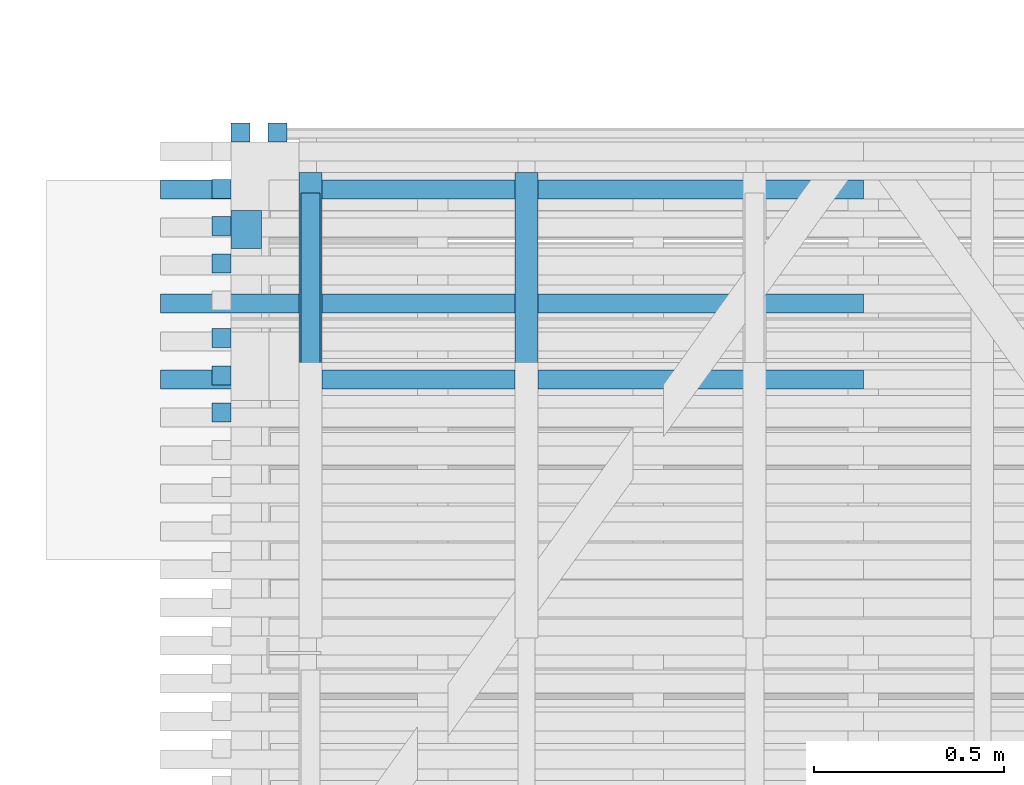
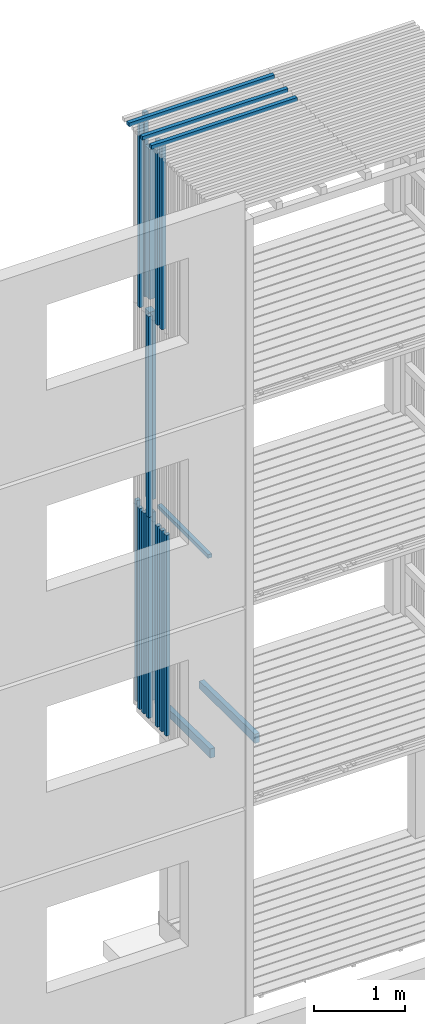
# One storey, part 117 of 182: 21 beams.
"""IFC2X3 building model written with IfcOpenShell, lengths in metres."""

from ifc_helpers import new_model, si_unit, frame, origin, place, context, project, spatial, faceted_brep, element, save


model = new_model("IFC2X3")

# Units and contexts
model_context = context("Model", 3, precision=1e-06, world=origin())
ifc_project = project(units=[si_unit("LENGTHUNIT", "METRE"), si_unit("PLANEANGLEUNIT", "RADIAN")], contexts=[model_context])

# Site, building, storey
site = spatial("IfcSite", under=ifc_project, CompositionType="ELEMENT")
building = spatial("IfcBuilding", under=site, CompositionType="ELEMENT")
storey = spatial("IfcBuildingStorey", under=building, Name="vs", CompositionType="ELEMENT", Elevation=-0.85)

# Beams
placement = place(None, origin())
beam_1_placement = place(placement, frame((53.80299999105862, 5.965077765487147, 2.604249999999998), z_axis=(0.0, 0.0, 1.0), x_axis=(0.0, 1.0, 0.0)))
element("IfcBeam", 1, at=beam_1_placement, inside=storey, Name="Solive", context=model_context, shape_type="Brep", body=[
    faceted_brep([(0.0, -0.030000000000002, -0.06185), (1.225000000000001, -0.030000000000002, -0.06185), (1.225000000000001, -0.030000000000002, 0.037349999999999), (0.0, -0.030000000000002, 0.06185), (0.0, 0.030000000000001, 0.06185), (0.0, 0.030000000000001, -0.06185), (0.0, -0.030000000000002, -0.06185), (0.0, -0.030000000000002, 0.06185), (0.0, -0.030000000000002, -0.06185), (0.0, 0.030000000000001, -0.06185), (1.225000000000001, 0.030000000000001, -0.06185), (1.225000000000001, -0.030000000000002, -0.06185), (1.225000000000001, 0.030000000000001, -0.06185), (0.0, 0.030000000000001, -0.06185), (0.0, 0.030000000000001, 0.06185), (1.225000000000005, 0.030000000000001, 0.037349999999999), (1.225000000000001, -0.030000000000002, 0.037349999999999), (1.225000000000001, -0.030000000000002, -0.06185), (1.225000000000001, 0.030000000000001, -0.06185), (1.225000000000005, 0.030000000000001, 0.037349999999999), (0.0, -0.030000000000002, 0.06185), (1.225000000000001, -0.030000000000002, 0.037349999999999), (1.225000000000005, 0.030000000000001, 0.037349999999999), (0.0, 0.030000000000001, 0.06185)], [[[0, 1, 2, 3]], [[4, 5, 6, 7]], [[8, 9, 10, 11]], [[12, 13, 14, 15]], [[16, 17, 18, 19]], [[20, 21, 22, 23]]]),
])
beam_2_placement = place(placement, frame((53.148181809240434, 7.295077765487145, 7.974999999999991), z_axis=(0.0, -1.0, 0.0), x_axis=(0.0, 0.0, 1.0)))
element("IfcBeam", 2, at=beam_2_placement, inside=storey, Name="Bardage", context=model_context, shape_type="Brep", body=[
    faceted_brep([(2.479999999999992, -0.025000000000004, 0.024999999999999), (2.479999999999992, -0.025000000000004, -0.024999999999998), (2.479999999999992, 0.025000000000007, -0.024999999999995), (2.479999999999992, 0.024999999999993, 0.025000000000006), (0.0, 0.024999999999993, 0.025000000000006), (0.0, -0.025000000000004, 0.024999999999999), (2.479999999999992, -0.025000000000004, 0.024999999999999), (2.479999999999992, 0.024999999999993, 0.025000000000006), (0.0, -0.025000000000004, 0.024999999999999), (0.0, 0.024999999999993, 0.025000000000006), (0.0, 0.025000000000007, -0.024999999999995), (0.0, -0.025000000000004, -0.025000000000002), (0.0, 0.025000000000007, -0.024999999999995), (0.0, 0.024999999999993, 0.025000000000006), (2.479999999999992, 0.024999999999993, 0.025000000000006), (2.479999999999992, 0.025000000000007, -0.024999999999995), (0.0, -0.025000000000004, -0.025000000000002), (0.0, 0.025000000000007, -0.024999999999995), (2.479999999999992, 0.025000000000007, -0.024999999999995), (2.479999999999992, -0.025000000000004, -0.024999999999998), (2.479999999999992, -0.025000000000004, 0.024999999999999), (0.0, -0.025000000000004, 0.024999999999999), (0.0, -0.025000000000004, -0.025000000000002), (2.479999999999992, -0.025000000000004, -0.024999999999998)], [[[0, 1, 2, 3]], [[4, 5, 6, 7]], [[8, 9, 10, 11]], [[12, 13, 14, 15]], [[16, 17, 18, 19]], [[20, 21, 22, 23]]]),
])
beam_3_placement = place(placement, frame((53.23499999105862, 7.135077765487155, 5.217399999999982), z_axis=(0.0, 0.0, 1.0), x_axis=(0.0, -1.0, 0.0)))
element("IfcBeam", 3, at=beam_3_placement, inside=storey, Name="Calage", context=model_context, shape_type="Brep", body=[
    faceted_brep([(0.0, 0.025000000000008, -0.024999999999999), (0.0, -0.024999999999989, -0.024999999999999), (0.0, -0.024999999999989, 0.024999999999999), (0.0, 0.025000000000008, 0.024999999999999), (1.115000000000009, -0.024999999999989, 0.024999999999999), (1.115000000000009, -0.024999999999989, -0.024999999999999), (1.115000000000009, 0.025000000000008, -0.024999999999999), (1.115000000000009, 0.025000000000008, 0.024999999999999), (0.0, -0.024999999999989, 0.024999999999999), (0.0, -0.024999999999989, -0.024999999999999), (1.115000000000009, -0.024999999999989, -0.024999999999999), (1.115000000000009, -0.024999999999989, 0.024999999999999), (1.115000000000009, -0.024999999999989, -0.024999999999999), (0.0, -0.024999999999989, -0.024999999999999), (0.0, 0.025000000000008, -0.024999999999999), (1.115000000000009, 0.025000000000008, -0.024999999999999), (1.115000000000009, 0.025000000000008, -0.024999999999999), (0.0, 0.025000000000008, -0.024999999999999), (0.0, 0.025000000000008, 0.024999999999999), (1.115000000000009, 0.025000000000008, 0.024999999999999), (1.115000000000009, 0.025000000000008, 0.024999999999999), (0.0, 0.025000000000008, 0.024999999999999), (0.0, -0.024999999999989, 0.024999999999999), (1.115000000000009, -0.024999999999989, 0.024999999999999)], [[[0, 1, 2, 3]], [[4, 5, 6, 7]], [[8, 9, 10, 11]], [[12, 13, 14, 15]], [[16, 17, 18, 19]], [[20, 21, 22, 23]]]),
])
beam_4_placement = place(placement, frame((53.23499999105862, 5.965077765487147, 2.604249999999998), z_axis=(0.0, 0.0, 1.0), x_axis=(0.0, 1.0, 0.0)))
element("IfcBeam", 4, at=beam_4_placement, inside=storey, Name="Solive", context=model_context, shape_type="Brep", body=[
    faceted_brep([(0.0, -0.030000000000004, -0.06185), (1.225000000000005, -0.030000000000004, -0.06185), (1.225000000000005, -0.030000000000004, 0.037349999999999), (0.0, -0.030000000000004, 0.06185), (0.0, 0.029999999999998, -0.06185), (1.225000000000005, 0.029999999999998, -0.06185), (1.225000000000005, -0.030000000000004, -0.06185), (0.0, -0.030000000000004, -0.06185), (0.0, 0.029999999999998, 0.06185), (0.0, 0.029999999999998, -0.06185), (0.0, -0.030000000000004, -0.06185), (0.0, -0.030000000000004, 0.06185), (1.225000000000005, 0.029999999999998, -0.06185), (0.0, 0.029999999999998, -0.06185), (0.0, 0.029999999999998, 0.06185), (1.225000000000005, 0.029999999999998, 0.037349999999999), (1.225000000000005, -0.030000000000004, 0.037349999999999), (1.225000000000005, -0.030000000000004, -0.06185), (1.225000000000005, 0.029999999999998, -0.06185), (1.225000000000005, 0.029999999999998, 0.037349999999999), (0.0, -0.030000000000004, 0.06185), (1.225000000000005, -0.030000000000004, 0.037349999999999), (1.225000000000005, 0.029999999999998, 0.037349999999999), (0.0, 0.029999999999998, 0.06185)], [[[0, 1, 2, 3]], [[4, 5, 6, 7]], [[8, 9, 10, 11]], [[12, 13, 14, 15]], [[16, 17, 18, 19]], [[20, 21, 22, 23]]]),
])
beam_5_placement = place(placement, frame((54.689999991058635, 6.845077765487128, 10.47999999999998), z_axis=(0.0, 0.0, 1.0), x_axis=(-1.0, -2e-15, 0.0)))
element("IfcBeam", 5, at=beam_5_placement, inside=storey, Name="Bardage", context=model_context, shape_type="Brep", body=[
    faceted_brep([(1.850000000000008, -0.025000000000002, -0.024999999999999), (1.850000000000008, -0.025000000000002, 0.025000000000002), (-1e-15, -0.024999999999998, 0.025000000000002), (-1e-15, -0.024999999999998, -0.024999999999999), (1.850000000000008, -0.025000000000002, 0.025000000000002), (1.850000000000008, -0.025000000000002, -0.024999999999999), (1.850000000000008, 0.025000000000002, -0.024999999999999), (1.850000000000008, 0.025000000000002, 0.025000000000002), (1.850000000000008, 0.025000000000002, -0.024999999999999), (1.850000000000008, -0.025000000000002, -0.024999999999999), (-1e-15, -0.024999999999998, -0.024999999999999), (0.0, 0.025000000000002, -0.024999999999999), (1.850000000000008, 0.025000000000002, 0.025000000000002), (1.850000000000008, 0.025000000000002, -0.024999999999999), (0.0, 0.025000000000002, -0.024999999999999), (0.0, 0.025000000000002, 0.025000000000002), (-1e-15, -0.024999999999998, 0.025000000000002), (1.850000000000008, -0.025000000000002, 0.025000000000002), (1.850000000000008, 0.025000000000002, 0.025000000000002), (0.0, 0.025000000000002, 0.025000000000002), (-1e-15, -0.024999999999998, -0.024999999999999), (-1e-15, -0.024999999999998, 0.025000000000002), (0.0, 0.025000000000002, 0.025000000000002), (0.0, 0.025000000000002, -0.024999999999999)], [[[0, 1, 2, 3]], [[4, 5, 6, 7]], [[8, 9, 10, 11]], [[12, 13, 14, 15]], [[16, 17, 18, 19]], [[20, 21, 22, 23]]]),
])
for number, where, z_axis, x_axis in (
    (6, (54.689999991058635, 7.145077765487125, 10.47999999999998), (0.0, 0.0, 1.0), (-1.0, 0.0, 0.0)),
    (7, (54.689999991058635, 6.645077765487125, 10.47999999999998), (0.0, 0.0, 1.0), (-1.0, 0.0, 0.0)),
):
    element("IfcBeam", number, at=place(placement, frame(where, z_axis=z_axis, x_axis=x_axis)), inside=storey, Name="Bardage", context=model_context, shape_type="Brep", body=[
        faceted_brep([(1.850000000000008, -0.024999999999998, -0.024999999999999), (1.850000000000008, -0.024999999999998, 0.025000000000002), (-1e-15, -0.024999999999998, 0.025000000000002), (-1e-15, -0.024999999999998, -0.024999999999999), (1.850000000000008, -0.024999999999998, 0.025000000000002), (1.850000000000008, -0.024999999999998, -0.024999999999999), (1.850000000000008, 0.024999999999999, -0.024999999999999), (1.850000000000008, 0.024999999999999, 0.025000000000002), (1.850000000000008, 0.024999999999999, -0.024999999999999), (1.850000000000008, -0.024999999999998, -0.024999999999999), (-1e-15, -0.024999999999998, -0.024999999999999), (-1e-15, 0.024999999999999, -0.024999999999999), (1.850000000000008, 0.024999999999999, 0.025000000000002), (1.850000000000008, 0.024999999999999, -0.024999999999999), (-1e-15, 0.024999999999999, -0.024999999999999), (-1e-15, 0.024999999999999, 0.025000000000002), (-1e-15, -0.024999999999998, 0.025000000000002), (1.850000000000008, -0.024999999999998, 0.025000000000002), (1.850000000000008, 0.024999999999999, 0.025000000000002), (-1e-15, 0.024999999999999, 0.025000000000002), (-1e-15, -0.024999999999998, -0.024999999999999), (-1e-15, -0.024999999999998, 0.025000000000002), (-1e-15, 0.024999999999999, 0.025000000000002), (-1e-15, 0.024999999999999, -0.024999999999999)], [[[0, 1, 2, 3]], [[4, 5, 6, 7]], [[8, 9, 10, 11]], [[12, 13, 14, 15]], [[16, 17, 18, 19]], [[20, 21, 22, 23]]]),
    ])
beam_6_placement = place(placement, frame((52.999999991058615, 6.65598685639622, 2.575000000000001), z_axis=(1.0, 0.0, 0.0), x_axis=(0.0, 0.0, 1.0)))
element("IfcBeam", 8, at=beam_6_placement, inside=storey, Name="Bardage", context=model_context, shape_type="Brep", body=[
    faceted_brep([(2.699961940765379, -0.025000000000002, 0.025000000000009), (2.699961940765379, -0.025000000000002, -0.025000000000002), (2.699961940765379, 0.024999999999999, -0.025000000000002), (2.699961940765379, 0.024999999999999, 0.025000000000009), (0.0, -0.025000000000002, 0.025000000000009), (2.699961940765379, -0.025000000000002, 0.025000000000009), (2.699961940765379, 0.024999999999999, 0.025000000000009), (0.0, 0.024999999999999, 0.025000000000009), (0.0, -0.025000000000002, 0.025000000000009), (0.0, 0.024999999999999, 0.025000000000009), (0.0, 0.024999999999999, -0.025000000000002), (0.0, -0.025000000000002, -0.025000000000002), (0.0, -0.025000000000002, 0.025000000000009), (0.0, -0.025000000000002, -0.025000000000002), (2.699961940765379, -0.025000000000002, -0.025000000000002), (2.699961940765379, -0.025000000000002, 0.025000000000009), (0.0, -0.025000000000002, -0.025000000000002), (0.0, 0.024999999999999, -0.025000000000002), (2.699961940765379, 0.024999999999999, -0.025000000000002), (2.699961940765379, -0.025000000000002, -0.025000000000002), (0.0, 0.024999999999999, -0.025000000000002), (0.0, 0.024999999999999, 0.025000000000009), (2.699961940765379, 0.024999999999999, 0.025000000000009), (2.699961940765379, 0.024999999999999, -0.025000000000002)], [[[0, 1, 2, 3]], [[4, 5, 6, 7]], [[8, 9, 10, 11]], [[12, 13, 14, 15]], [[16, 17, 18, 19]], [[20, 21, 22, 23]]]),
])
beam_7_placement = place(placement, frame((52.999999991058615, 7.146895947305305, 2.575000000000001), z_axis=(1.0, 0.0, 0.0), x_axis=(0.0, 0.0, 1.0)))
element("IfcBeam", 9, at=beam_7_placement, inside=storey, Name="Bardage", context=model_context, shape_type="Brep", body=[
    faceted_brep([(2.699961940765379, -0.025000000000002, 0.025000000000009), (2.699961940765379, -0.025000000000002, -0.025000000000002), (2.699961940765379, 0.024999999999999, -0.025000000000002), (2.699961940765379, 0.024999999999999, 0.025000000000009), (0.0, -0.024999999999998, 0.025000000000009), (2.699961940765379, -0.025000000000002, 0.025000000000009), (2.699961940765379, 0.024999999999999, 0.025000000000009), (0.0, 0.024999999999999, 0.025000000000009), (0.0, -0.024999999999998, 0.025000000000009), (0.0, 0.024999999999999, 0.025000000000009), (0.0, 0.024999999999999, -0.025000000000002), (0.0, -0.024999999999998, -0.025000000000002), (0.0, -0.024999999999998, 0.025000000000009), (0.0, -0.024999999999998, -0.025000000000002), (2.699961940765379, -0.025000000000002, -0.025000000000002), (2.699961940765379, -0.025000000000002, 0.025000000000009), (0.0, -0.024999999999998, -0.025000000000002), (0.0, 0.024999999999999, -0.025000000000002), (2.699961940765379, 0.024999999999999, -0.025000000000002), (2.699961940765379, -0.025000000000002, -0.025000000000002), (0.0, 0.024999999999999, -0.025000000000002), (0.0, 0.024999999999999, 0.025000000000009), (2.699961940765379, 0.024999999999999, 0.025000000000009), (2.699961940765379, 0.024999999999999, -0.025000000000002)], [[[0, 1, 2, 3]], [[4, 5, 6, 7]], [[8, 9, 10, 11]], [[12, 13, 14, 15]], [[16, 17, 18, 19]], [[20, 21, 22, 23]]]),
])
beam_8_placement = place(placement, frame((52.999999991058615, 7.146895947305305, 7.974999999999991), z_axis=(1.0, 0.0, 0.0), x_axis=(0.0, 0.0, 1.0)))
element("IfcBeam", 10, at=beam_8_placement, inside=storey, Name="Bardage", context=model_context, shape_type="Brep", body=[
    faceted_brep([(0.0, -0.024999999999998, 0.025000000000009), (0.0, 0.024999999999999, 0.025000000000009), (0.0, 0.024999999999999, -0.025000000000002), (0.0, -0.024999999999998, -0.025000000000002), (2.479999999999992, 0.024999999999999, -0.025000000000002), (2.479999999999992, 0.024999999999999, 0.025000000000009), (2.479999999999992, -0.025000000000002, 0.025000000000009), (2.479999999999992, -0.025000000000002, -0.025000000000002), (0.0, 0.024999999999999, 0.025000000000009), (0.0, -0.024999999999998, 0.025000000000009), (2.479999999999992, -0.025000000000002, 0.025000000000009), (2.479999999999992, 0.024999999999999, 0.025000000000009), (0.0, 0.024999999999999, -0.025000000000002), (0.0, 0.024999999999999, 0.025000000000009), (2.479999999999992, 0.024999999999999, 0.025000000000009), (2.479999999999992, 0.024999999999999, -0.025000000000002), (0.0, -0.024999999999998, -0.025000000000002), (0.0, 0.024999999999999, -0.025000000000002), (2.479999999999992, 0.024999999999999, -0.025000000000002), (2.479999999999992, -0.025000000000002, -0.025000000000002), (2.479999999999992, -0.025000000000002, 0.025000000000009), (0.0, -0.024999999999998, 0.025000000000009), (0.0, -0.024999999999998, -0.025000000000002), (2.479999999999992, -0.025000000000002, -0.025000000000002)], [[[0, 1, 2, 3]], [[4, 5, 6, 7]], [[8, 9, 10, 11]], [[12, 13, 14, 15]], [[16, 17, 18, 19]], [[20, 21, 22, 23]]]),
])
beam_9_placement = place(placement, frame((53.04999999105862, 7.295077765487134, 2.575000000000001), z_axis=(0.0, -1.0, 0.0), x_axis=(0.0, 0.0, 1.0)))
element("IfcBeam", 11, at=beam_9_placement, inside=storey, Name="Bardage", context=model_context, shape_type="Brep", body=[
    faceted_brep([(0.0, -0.025000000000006, 0.025000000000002), (0.0, 0.024999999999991, 0.025000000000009), (0.0, 0.025000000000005, -0.024999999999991), (0.0, -0.024999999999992, -0.024999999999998), (2.699961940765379, 0.025000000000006, -0.024999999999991), (2.699961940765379, 0.024999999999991, 0.025000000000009), (2.699961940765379, -0.025000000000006, 0.025000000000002), (2.699961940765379, -0.024999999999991, -0.024999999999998), (0.0, -0.024999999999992, -0.024999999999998), (0.0, 0.025000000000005, -0.024999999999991), (2.699961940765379, 0.025000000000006, -0.024999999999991), (2.699961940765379, -0.024999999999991, -0.024999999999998), (2.699961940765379, 0.025000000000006, -0.024999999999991), (0.0, 0.025000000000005, -0.024999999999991), (0.0, 0.024999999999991, 0.025000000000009), (2.699961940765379, 0.024999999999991, 0.025000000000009), (2.699961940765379, 0.024999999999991, 0.025000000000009), (0.0, 0.024999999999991, 0.025000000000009), (0.0, -0.025000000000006, 0.025000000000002), (2.699961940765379, -0.025000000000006, 0.025000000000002), (2.699961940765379, -0.025000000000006, 0.025000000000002), (0.0, -0.025000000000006, 0.025000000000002), (0.0, -0.024999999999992, -0.024999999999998), (2.699961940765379, -0.024999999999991, -0.024999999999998)], [[[0, 1, 2, 3]], [[4, 5, 6, 7]], [[8, 9, 10, 11]], [[12, 13, 14, 15]], [[16, 17, 18, 19]], [[20, 21, 22, 23]]]),
])
beam_10_placement = place(placement, frame((52.999999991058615, 6.557805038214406, 2.575000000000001), z_axis=(1.0, 0.0, 0.0), x_axis=(0.0, 0.0, 1.0)))
element("IfcBeam", 12, at=beam_10_placement, inside=storey, Name="Bardage", context=model_context, shape_type="Brep", body=[
    faceted_brep([(2.699961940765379, -0.024999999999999, 0.025000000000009), (2.699961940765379, -0.024999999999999, -0.025000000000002), (2.699961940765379, 0.024999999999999, -0.025000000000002), (2.699961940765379, 0.024999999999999, 0.025000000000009), (0.0, -0.024999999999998, 0.025000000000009), (2.699961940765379, -0.024999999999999, 0.025000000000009), (2.699961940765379, 0.024999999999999, 0.025000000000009), (0.0, 0.024999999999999, 0.025000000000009), (0.0, -0.024999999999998, 0.025000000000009), (0.0, 0.024999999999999, 0.025000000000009), (0.0, 0.024999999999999, -0.025000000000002), (0.0, -0.024999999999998, -0.025000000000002), (0.0, -0.024999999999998, 0.025000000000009), (0.0, -0.024999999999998, -0.025000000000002), (2.699961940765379, -0.024999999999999, -0.025000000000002), (2.699961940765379, -0.024999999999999, 0.025000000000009), (0.0, -0.024999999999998, -0.025000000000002), (0.0, 0.024999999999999, -0.025000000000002), (2.699961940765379, 0.024999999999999, -0.025000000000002), (2.699961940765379, -0.024999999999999, -0.025000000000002), (0.0, 0.024999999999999, -0.025000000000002), (0.0, 0.024999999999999, 0.025000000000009), (2.699961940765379, 0.024999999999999, 0.025000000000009), (2.699961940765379, 0.024999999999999, -0.025000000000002)], [[[0, 1, 2, 3]], [[4, 5, 6, 7]], [[8, 9, 10, 11]], [[12, 13, 14, 15]], [[16, 17, 18, 19]], [[20, 21, 22, 23]]]),
])
beam_11_placement = place(placement, frame((52.999999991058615, 7.048714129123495, 2.575000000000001), z_axis=(1.0, 0.0, 0.0), x_axis=(0.0, 0.0, 1.0)))
element("IfcBeam", 13, at=beam_11_placement, inside=storey, Name="Bardage", context=model_context, shape_type="Brep", body=[
    faceted_brep([(2.699961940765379, -0.024999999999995, 0.025000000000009), (2.699961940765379, -0.024999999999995, -0.025000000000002), (2.699961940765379, 0.025000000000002, -0.025000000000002), (2.699961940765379, 0.025000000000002, 0.025000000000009), (0.0, -0.024999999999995, 0.025000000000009), (2.699961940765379, -0.024999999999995, 0.025000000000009), (2.699961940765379, 0.025000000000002, 0.025000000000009), (0.0, 0.025000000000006, 0.025000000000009), (0.0, -0.024999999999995, 0.025000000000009), (0.0, 0.025000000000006, 0.025000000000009), (0.0, 0.025000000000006, -0.025000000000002), (0.0, -0.024999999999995, -0.025000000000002), (0.0, -0.024999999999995, 0.025000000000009), (0.0, -0.024999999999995, -0.025000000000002), (2.699961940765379, -0.024999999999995, -0.025000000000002), (2.699961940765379, -0.024999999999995, 0.025000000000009), (0.0, -0.024999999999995, -0.025000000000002), (0.0, 0.025000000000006, -0.025000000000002), (2.699961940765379, 0.025000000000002, -0.025000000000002), (2.699961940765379, -0.024999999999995, -0.025000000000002), (0.0, 0.025000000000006, -0.025000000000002), (0.0, 0.025000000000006, 0.025000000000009), (2.699961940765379, 0.025000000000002, 0.025000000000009), (2.699961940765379, 0.025000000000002, -0.025000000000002)], [[[0, 1, 2, 3]], [[4, 5, 6, 7]], [[8, 9, 10, 11]], [[12, 13, 14, 15]], [[16, 17, 18, 19]], [[20, 21, 22, 23]]]),
])
beam_12_placement = place(placement, frame((52.999999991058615, 6.950532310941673, 5.274999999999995), z_axis=(1.0, 0.0, 0.0), x_axis=(0.0, 0.0, 1.0)))
element("IfcBeam", 14, at=beam_12_placement, inside=storey, Name="Bardage", context=model_context, shape_type="Brep", body=[
    faceted_brep([(2.699999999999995, 0.025000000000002, 0.025000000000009), (2.699999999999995, -0.025000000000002, 0.025000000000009), (2.699999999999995, -0.025000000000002, -0.025000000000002), (2.699999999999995, 0.025000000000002, -0.025000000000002), (1e-15, 0.025000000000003, 0.025000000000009), (2.699999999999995, 0.025000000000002, 0.025000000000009), (2.699999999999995, 0.025000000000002, -0.025000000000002), (1e-15, 0.025000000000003, -0.025000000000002), (1e-15, -0.025000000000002, 0.025000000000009), (1e-15, 0.025000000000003, 0.025000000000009), (1e-15, 0.025000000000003, -0.025000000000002), (1e-15, -0.025000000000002, -0.025000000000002), (1e-15, 0.025000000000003, 0.025000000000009), (1e-15, -0.025000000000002, 0.025000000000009), (2.699999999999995, -0.025000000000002, 0.025000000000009), (2.699999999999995, 0.025000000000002, 0.025000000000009), (1e-15, -0.025000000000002, 0.025000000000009), (1e-15, -0.025000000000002, -0.025000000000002), (2.699999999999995, -0.025000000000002, -0.025000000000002), (2.699999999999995, -0.025000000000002, 0.025000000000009), (1e-15, -0.025000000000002, -0.025000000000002), (1e-15, 0.025000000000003, -0.025000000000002), (2.699999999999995, 0.025000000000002, -0.025000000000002), (2.699999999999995, -0.025000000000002, -0.025000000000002)], [[[0, 1, 2, 3]], [[4, 5, 6, 7]], [[8, 9, 10, 11]], [[12, 13, 14, 15]], [[16, 17, 18, 19]], [[20, 21, 22, 23]]]),
])
beam_13_placement = place(placement, frame((53.06499999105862, 7.040077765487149, 5.446999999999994), z_axis=(0.0, -1.0, 0.0), x_axis=(0.0, 0.0, 1.0)))
element("IfcBeam", 15, at=beam_13_placement, inside=storey, Name="Support bardage", context=model_context, shape_type="Brep", body=[
    faceted_brep([(2.527999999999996, 0.039999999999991, -0.050000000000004), (2.527999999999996, 0.039999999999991, 0.049999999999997), (2.527999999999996, -0.040000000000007, 0.049999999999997), (2.527999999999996, -0.040000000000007, -0.050000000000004), (-1e-15, 0.039999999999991, -0.050000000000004), (2.527999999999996, 0.039999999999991, -0.050000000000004), (2.527999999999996, -0.040000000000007, -0.050000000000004), (-1e-15, -0.040000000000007, -0.050000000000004), (-1e-15, 0.039999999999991, -0.050000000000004), (-1e-15, -0.040000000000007, -0.050000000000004), (-1e-15, -0.040000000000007, 0.049999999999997), (-1e-15, 0.039999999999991, 0.049999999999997), (-1e-15, 0.039999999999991, -0.050000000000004), (-1e-15, 0.039999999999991, 0.049999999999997), (2.527999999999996, 0.039999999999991, 0.049999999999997), (2.527999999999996, 0.039999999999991, -0.050000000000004), (-1e-15, 0.039999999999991, 0.049999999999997), (-1e-15, -0.040000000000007, 0.049999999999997), (2.527999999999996, -0.040000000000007, 0.049999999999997), (2.527999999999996, 0.039999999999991, 0.049999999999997), (-1e-15, -0.040000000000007, 0.049999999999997), (-1e-15, -0.040000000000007, -0.050000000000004), (2.527999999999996, -0.040000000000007, -0.050000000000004), (2.527999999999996, -0.040000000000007, 0.049999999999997)], [[[0, 1, 2, 3]], [[4, 5, 6, 7]], [[8, 9, 10, 11]], [[12, 13, 14, 15]], [[16, 17, 18, 19]], [[20, 21, 22, 23]]]),
])
beam_14_placement = place(placement, frame((52.999999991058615, 6.950532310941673, 2.575000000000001), z_axis=(1.0, 0.0, 0.0), x_axis=(0.0, 0.0, 1.0)))
element("IfcBeam", 16, at=beam_14_placement, inside=storey, Name="Bardage", context=model_context, shape_type="Brep", body=[
    faceted_brep([(2.699961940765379, -0.025000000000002, 0.025000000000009), (2.699961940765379, -0.025000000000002, -0.025000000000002), (2.699961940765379, 0.025000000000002, -0.025000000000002), (2.699961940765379, 0.025000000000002, 0.025000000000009), (0.0, -0.025000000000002, 0.025000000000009), (2.699961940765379, -0.025000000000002, 0.025000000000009), (2.699961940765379, 0.025000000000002, 0.025000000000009), (0.0, 0.025000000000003, 0.025000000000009), (0.0, -0.025000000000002, 0.025000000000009), (0.0, 0.025000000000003, 0.025000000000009), (0.0, 0.025000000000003, -0.025000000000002), (0.0, -0.025000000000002, -0.025000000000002), (0.0, -0.025000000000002, 0.025000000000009), (0.0, -0.025000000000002, -0.025000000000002), (2.699961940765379, -0.025000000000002, -0.025000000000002), (2.699961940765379, -0.025000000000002, 0.025000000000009), (0.0, -0.025000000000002, -0.025000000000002), (0.0, 0.025000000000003, -0.025000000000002), (2.699961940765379, 0.025000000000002, -0.025000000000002), (2.699961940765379, -0.025000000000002, -0.025000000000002), (0.0, 0.025000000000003, -0.025000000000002), (0.0, 0.025000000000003, 0.025000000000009), (2.699961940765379, 0.025000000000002, 0.025000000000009), (2.699961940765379, 0.025000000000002, -0.025000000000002)], [[[0, 1, 2, 3]], [[4, 5, 6, 7]], [[8, 9, 10, 11]], [[12, 13, 14, 15]], [[16, 17, 18, 19]], [[20, 21, 22, 23]]]),
])
beam_15_placement = place(placement, frame((53.06499999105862, 7.040077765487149, 2.746999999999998), z_axis=(0.0, -1.0, 0.0), x_axis=(0.0, 0.0, 1.0)))
element("IfcBeam", 17, at=beam_15_placement, inside=storey, Name="Support bardage", context=model_context, shape_type="Brep", body=[
    faceted_brep([(2.527961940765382, 0.039999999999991, 0.049999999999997), (2.527961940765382, -0.040000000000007, 0.049999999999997), (2.527961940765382, -0.040000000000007, -0.050000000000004), (2.527961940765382, 0.039999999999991, -0.050000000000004), (0.0, 0.039999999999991, 0.049999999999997), (2.527961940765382, 0.039999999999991, 0.049999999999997), (2.527961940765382, 0.039999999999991, -0.050000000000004), (0.0, 0.039999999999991, -0.050000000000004), (0.0, 0.039999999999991, 0.049999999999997), (0.0, 0.039999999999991, -0.050000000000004), (0.0, -0.040000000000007, -0.050000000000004), (0.0, -0.040000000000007, 0.049999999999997), (0.0, 0.039999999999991, 0.049999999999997), (0.0, -0.040000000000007, 0.049999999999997), (2.527961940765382, -0.040000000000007, 0.049999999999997), (2.527961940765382, 0.039999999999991, 0.049999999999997), (0.0, -0.040000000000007, 0.049999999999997), (0.0, -0.040000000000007, -0.050000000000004), (2.527961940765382, -0.040000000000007, -0.050000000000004), (2.527961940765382, -0.040000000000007, 0.049999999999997), (0.0, -0.040000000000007, -0.050000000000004), (0.0, 0.039999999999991, -0.050000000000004), (2.527961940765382, 0.039999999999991, -0.050000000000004), (2.527961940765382, -0.040000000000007, -0.050000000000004)], [[[0, 1, 2, 3]], [[4, 5, 6, 7]], [[8, 9, 10, 11]], [[12, 13, 14, 15]], [[16, 17, 18, 19]], [[20, 21, 22, 23]]]),
])
beam_16_placement = place(placement, frame((53.06499999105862, 7.040077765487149, 8.146999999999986), z_axis=(0.0, -1.0, 0.0), x_axis=(0.0, 0.0, 1.0)))
element("IfcBeam", 18, at=beam_16_placement, inside=storey, Name="Support bardage", context=model_context, shape_type="Brep", body=[
    faceted_brep([(2.017999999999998, -0.040000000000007, -0.050000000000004), (2.017999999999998, 0.039999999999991, -0.050000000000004), (2.017999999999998, 0.039999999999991, 0.049999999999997), (2.017999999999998, -0.040000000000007, 0.049999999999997), (1e-15, 0.039999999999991, -0.050000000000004), (1e-15, -0.040000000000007, -0.050000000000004), (1e-15, -0.040000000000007, 0.049999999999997), (1e-15, 0.039999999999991, 0.049999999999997), (2.017999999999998, 0.039999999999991, 0.049999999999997), (2.017999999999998, 0.039999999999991, -0.050000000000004), (1e-15, 0.039999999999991, -0.050000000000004), (1e-15, 0.039999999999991, 0.049999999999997), (1e-15, 0.039999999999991, -0.050000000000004), (2.017999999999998, 0.039999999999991, -0.050000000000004), (2.017999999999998, -0.040000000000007, -0.050000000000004), (1e-15, -0.040000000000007, -0.050000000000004), (1e-15, -0.040000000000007, -0.050000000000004), (2.017999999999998, -0.040000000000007, -0.050000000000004), (2.017999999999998, -0.040000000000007, 0.049999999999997), (1e-15, -0.040000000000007, 0.049999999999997), (1e-15, -0.040000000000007, 0.049999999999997), (2.017999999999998, -0.040000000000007, 0.049999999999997), (2.017999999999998, 0.039999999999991, 0.049999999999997), (1e-15, 0.039999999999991, 0.049999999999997)], [[[0, 1, 2, 3]], [[4, 5, 6, 7]], [[8, 9, 10, 11]], [[12, 13, 14, 15]], [[16, 17, 18, 19]], [[20, 21, 22, 23]]]),
])
beam_17_placement = place(placement, frame((52.999999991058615, 6.65598685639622, 7.974999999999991), z_axis=(1.0, 0.0, 0.0), x_axis=(0.0, 0.0, 1.0)))
element("IfcBeam", 19, at=beam_17_placement, inside=storey, Name="Bardage", context=model_context, shape_type="Brep", body=[
    faceted_brep([(0.0, -0.025000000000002, 0.025000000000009), (0.0, 0.024999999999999, 0.025000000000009), (0.0, 0.024999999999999, -0.025000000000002), (0.0, -0.025000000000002, -0.025000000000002), (2.479999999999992, 0.024999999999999, -0.025000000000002), (2.479999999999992, 0.024999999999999, 0.025000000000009), (2.479999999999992, -0.025000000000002, 0.025000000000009), (2.479999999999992, -0.025000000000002, -0.025000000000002), (0.0, 0.024999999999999, 0.025000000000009), (0.0, -0.025000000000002, 0.025000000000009), (2.479999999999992, -0.025000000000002, 0.025000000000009), (2.479999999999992, 0.024999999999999, 0.025000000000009), (0.0, 0.024999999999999, -0.025000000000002), (0.0, 0.024999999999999, 0.025000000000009), (2.479999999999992, 0.024999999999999, 0.025000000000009), (2.479999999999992, 0.024999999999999, -0.025000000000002), (0.0, -0.025000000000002, -0.025000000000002), (0.0, 0.024999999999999, -0.025000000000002), (2.479999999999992, 0.024999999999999, -0.025000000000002), (2.479999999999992, -0.025000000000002, -0.025000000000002), (2.479999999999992, -0.025000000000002, 0.025000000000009), (0.0, -0.025000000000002, 0.025000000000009), (0.0, -0.025000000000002, -0.025000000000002), (2.479999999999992, -0.025000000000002, -0.025000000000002)], [[[0, 1, 2, 3]], [[4, 5, 6, 7]], [[8, 9, 10, 11]], [[12, 13, 14, 15]], [[16, 17, 18, 19]], [[20, 21, 22, 23]]]),
])
beam_18_placement = place(placement, frame((52.999999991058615, 6.754168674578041, 2.575000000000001), z_axis=(1.0, 0.0, 0.0), x_axis=(0.0, 0.0, 1.0)))
element("IfcBeam", 20, at=beam_18_placement, inside=storey, Name="Bardage", context=model_context, shape_type="Brep", body=[
    faceted_brep([(2.699961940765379, -0.024999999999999, 0.025000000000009), (2.699961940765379, -0.024999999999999, -0.025000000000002), (2.699961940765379, 0.025000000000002, -0.025000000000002), (2.699961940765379, 0.025000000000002, 0.025000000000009), (0.0, -0.024999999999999, 0.025000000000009), (2.699961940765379, -0.024999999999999, 0.025000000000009), (2.699961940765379, 0.025000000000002, 0.025000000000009), (0.0, 0.025000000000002, 0.025000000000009), (0.0, -0.024999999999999, 0.025000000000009), (0.0, 0.025000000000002, 0.025000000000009), (0.0, 0.025000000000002, -0.025000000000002), (0.0, -0.024999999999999, -0.025000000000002), (0.0, -0.024999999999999, 0.025000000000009), (0.0, -0.024999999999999, -0.025000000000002), (2.699961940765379, -0.024999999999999, -0.025000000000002), (2.699961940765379, -0.024999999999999, 0.025000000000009), (0.0, -0.024999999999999, -0.025000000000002), (0.0, 0.025000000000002, -0.025000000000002), (2.699961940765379, 0.025000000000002, -0.025000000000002), (2.699961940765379, -0.024999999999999, -0.025000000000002), (0.0, 0.025000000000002, -0.025000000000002), (0.0, 0.025000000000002, 0.025000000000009), (2.699961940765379, 0.025000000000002, 0.025000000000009), (2.699961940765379, 0.025000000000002, -0.025000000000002)], [[[0, 1, 2, 3]], [[4, 5, 6, 7]], [[8, 9, 10, 11]], [[12, 13, 14, 15]], [[16, 17, 18, 19]], [[20, 21, 22, 23]]]),
])
beam_19_placement = place(placement, frame((52.999999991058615, 6.754168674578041, 7.974999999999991), z_axis=(1.0, 0.0, 0.0), x_axis=(0.0, 0.0, 1.0)))
element("IfcBeam", 21, at=beam_19_placement, inside=storey, Name="Bardage", context=model_context, shape_type="Brep", body=[
    faceted_brep([(0.0, -0.024999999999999, 0.025000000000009), (0.0, 0.025000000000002, 0.025000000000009), (0.0, 0.025000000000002, -0.025000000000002), (0.0, -0.024999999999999, -0.025000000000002), (2.479999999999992, 0.025000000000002, -0.025000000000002), (2.479999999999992, 0.025000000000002, 0.025000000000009), (2.479999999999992, -0.024999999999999, 0.025000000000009), (2.479999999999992, -0.024999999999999, -0.025000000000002), (0.0, 0.025000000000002, 0.025000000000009), (0.0, -0.024999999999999, 0.025000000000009), (2.479999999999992, -0.024999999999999, 0.025000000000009), (2.479999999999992, 0.025000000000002, 0.025000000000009), (0.0, 0.025000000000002, -0.025000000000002), (0.0, 0.025000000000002, 0.025000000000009), (2.479999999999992, 0.025000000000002, 0.025000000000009), (2.479999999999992, 0.025000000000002, -0.025000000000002), (0.0, -0.024999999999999, -0.025000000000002), (0.0, 0.025000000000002, -0.025000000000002), (2.479999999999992, 0.025000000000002, -0.025000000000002), (2.479999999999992, -0.024999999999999, -0.025000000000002), (2.479999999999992, -0.024999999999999, 0.025000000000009), (0.0, -0.024999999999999, 0.025000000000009), (0.0, -0.024999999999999, -0.025000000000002), (2.479999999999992, -0.024999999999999, -0.025000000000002)], [[[0, 1, 2, 3]], [[4, 5, 6, 7]], [[8, 9, 10, 11]], [[12, 13, 14, 15]], [[16, 17, 18, 19]], [[20, 21, 22, 23]]]),
])

save(model, "model.ifc")
